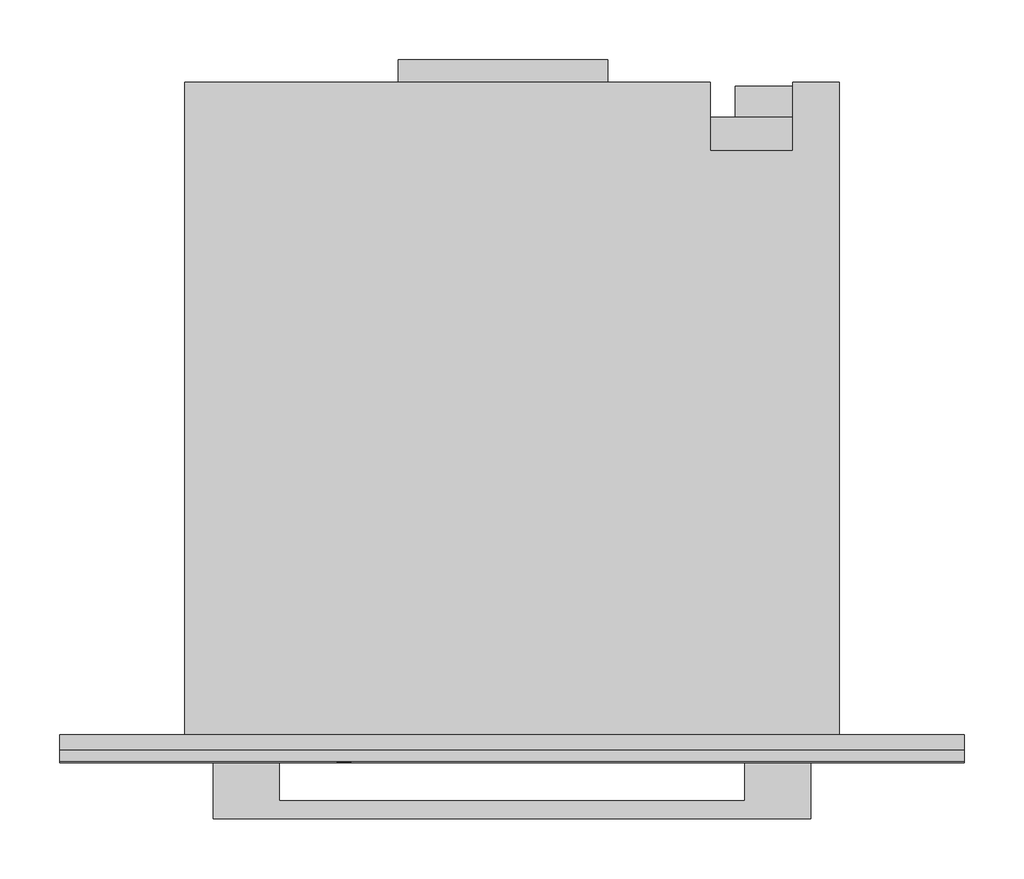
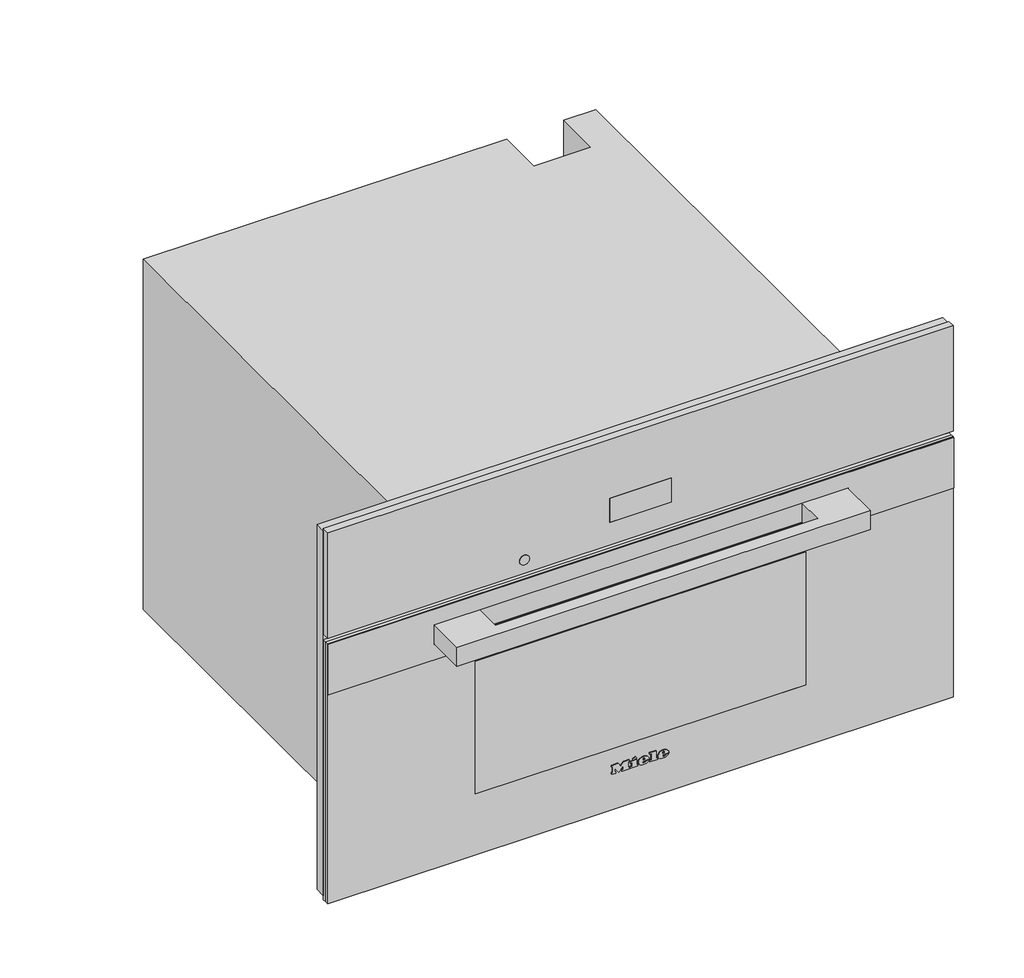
# Not in any storey: 1 proxy.
"""IFC4 building model written with IfcOpenShell, lengths in millimetres."""

from ifc_helpers import new_model, si_unit, origin, place, context, project, spatial, transform, mapped, element, save
from components import specialty_equipment_19ac06d2

model = new_model("IFC4")

# Units and contexts
model_context = context("Model", 3, world=origin())
ifc_project = project(units=[si_unit("LENGTHUNIT", "METRE", prefix="MILLI")], contexts=[model_context])

# Site, building
site = spatial("IfcSite", under=ifc_project)
building = spatial("IfcBuilding", under=site)

# Proxy
placement = place(None, origin())
specialty_equipment_shape = specialty_equipment_19ac06d2(model_context)
element("IfcBuildingElementProxy", 1, Name="11876230_USA_DGC7470_EDST-CLST : 23747042_USA_11876230_DGC7470_EDST-CLST", ObjectType="11876230_USA_DGC7470_EDST-CLST : 23747042_USA_11876230_DGC7470_EDST-CLST", at=placement, inside=building, context=model_context, shape_type="MappedRepresentation", body=[
    mapped(specialty_equipment_shape, transform((0.0, 0.0, 0.0), x_axis=(1.0, 0.0, 0.0), y_axis=(0.0, 1.0, 0.0), z_axis=(0.0, 0.0, 1.0))),
])

save(model, "model.ifc")
